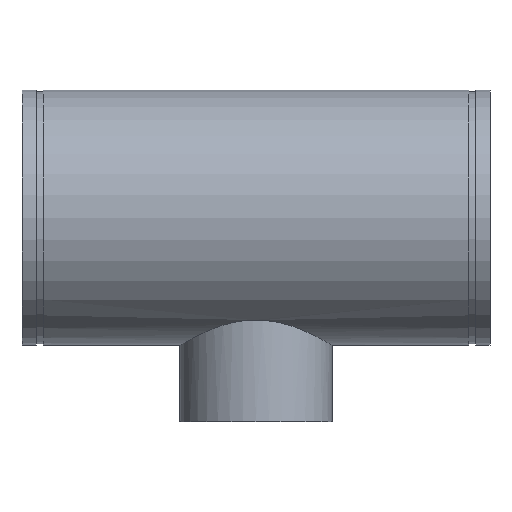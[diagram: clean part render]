
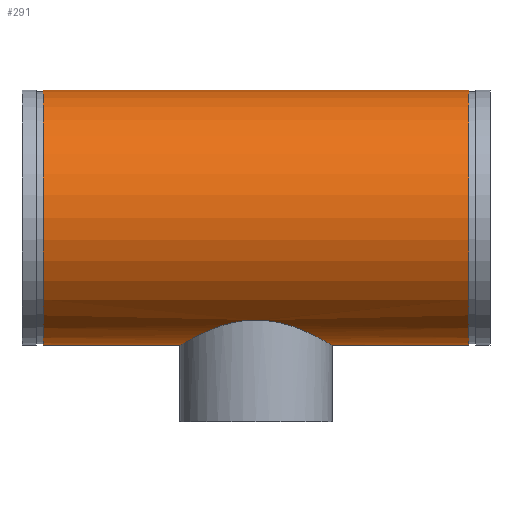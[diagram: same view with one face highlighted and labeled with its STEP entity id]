
A CAD part, top view. The second image highlights one B-rep face of the part: STEP entity #291.
In plain terms, the highlighted cylindrical face has radius 228.6 mm (diameter 457.2 mm), a full revolution.
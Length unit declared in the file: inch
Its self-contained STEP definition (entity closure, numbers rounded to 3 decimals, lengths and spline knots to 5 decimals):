
#45=B_SPLINE_CURVE_WITH_KNOTS('',3,(#511,#512,#513,#514,#515,#516,#517,
#518,#519,#520,#521,#522,#523,#524,#525,#526,#527,#528,#529,#530,#531,#532,
#533,#534,#535,#536,#537,#538,#539,#540,#541,#542,#543,#544,#545,#546,#547,
#548,#549,#550,#551,#552,#553,#554,#555,#556,#557,#558,#559,#560,#561,#562,
#563,#564,#565,#566),.UNSPECIFIED.,.F.,.F.,(4,2,2,2,2,2,2,2,2,2,2,2,2,2,
2,2,2,2,2,2,2,2,2,2,2,2,2,4),(0.,1.33009,2.66019,5.32038,
7.98057,10.64076,13.28417,15.92758,18.57099,
21.21441,23.85782,26.50123,29.14464,31.78805,
34.44824,37.10843,39.76862,41.09872,42.42881,
43.75891,45.089,47.74919,50.40938,53.06957,
55.71298,58.35639,60.99981,63.64322),
 .UNSPECIFIED.);
#46=B_SPLINE_CURVE_WITH_KNOTS('',3,(#567,#568,#569,#570,#571,#572,#573,
#574,#575,#576,#577,#578,#579,#580,#581,#582,#583,#584,#585,#586),
 .UNSPECIFIED.,.F.,.F.,(4,2,2,2,2,2,2,2,2,4),(63.64322,66.28663,
68.93004,71.57345,74.21687,76.87705,79.53724,
82.19743,83.52753,84.85762),.UNSPECIFIED.);
#51=LINE('',#508,#59);
#59=VECTOR('',#410,9.);
#67=CYLINDRICAL_SURFACE('',#338,9.);
#77=FACE_BOUND('',#108,.T.);
#88=FACE_OUTER_BOUND('',#107,.T.);
#107=EDGE_LOOP('',(#221,#222,#223,#224));
#108=EDGE_LOOP('',(#225,#226));
#121=CIRCLE('',#321,9.);
#132=CIRCLE('',#337,9.);
#141=VERTEX_POINT('',#476);
#152=VERTEX_POINT('',#505);
#153=VERTEX_POINT('',#509);
#154=VERTEX_POINT('',#510);
#165=EDGE_CURVE('',#141,#141,#121,.T.);
#178=EDGE_CURVE('',#152,#152,#132,.T.);
#179=EDGE_CURVE('',#152,#141,#51,.T.);
#180=EDGE_CURVE('',#153,#154,#45,.T.);
#181=EDGE_CURVE('',#154,#153,#46,.T.);
#221=ORIENTED_EDGE('',*,*,#178,.T.);
#222=ORIENTED_EDGE('',*,*,#179,.T.);
#223=ORIENTED_EDGE('',*,*,#165,.T.);
#224=ORIENTED_EDGE('',*,*,#179,.F.);
#225=ORIENTED_EDGE('',*,*,#180,.F.);
#226=ORIENTED_EDGE('',*,*,#181,.F.);
#291=ADVANCED_FACE('',(#88,#77),#67,.T.);
#321=AXIS2_PLACEMENT_3D('',#477,#372,#373);
#337=AXIS2_PLACEMENT_3D('',#506,#406,#407);
#338=AXIS2_PLACEMENT_3D('',#507,#408,#409);
#372=DIRECTION('center_axis',(-1.,0.,0.));
#373=DIRECTION('ref_axis',(0.,-1.,0.));
#406=DIRECTION('center_axis',(1.,0.,0.));
#407=DIRECTION('ref_axis',(0.,-1.,0.));
#408=DIRECTION('center_axis',(-1.,0.,0.));
#409=DIRECTION('ref_axis',(0.,-1.,0.));
#410=DIRECTION('',(1.,0.,0.));
#476=CARTESIAN_POINT('',(15.,9.,0.));
#477=CARTESIAN_POINT('Origin',(15.,0.,0.));
#505=CARTESIAN_POINT('',(-15.,9.,0.));
#506=CARTESIAN_POINT('Origin',(-15.,0.,0.));
#507=CARTESIAN_POINT('Origin',(16.5,0.,0.));
#508=CARTESIAN_POINT('',(16.5,9.,0.));
#509=CARTESIAN_POINT('',(0.,-7.21868,-5.375));
#510=CARTESIAN_POINT('',(-5.375,-9.,0.));
#511=CARTESIAN_POINT('Ctrl Pts',(0.,-7.21868,-5.375));
#512=CARTESIAN_POINT('Ctrl Pts',(0.17455,-7.21868,-5.375));
#513=CARTESIAN_POINT('Ctrl Pts',(0.351,-7.22506,-5.36646));
#514=CARTESIAN_POINT('Ctrl Pts',(0.70434,-7.25082,-5.33161));
#515=CARTESIAN_POINT('Ctrl Pts',(0.88123,-7.2702,-5.30529));
#516=CARTESIAN_POINT('Ctrl Pts',(1.40776,-7.34646,-5.19971));
#517=CARTESIAN_POINT('Ctrl Pts',(1.75323,-7.42182,-5.09353));
#518=CARTESIAN_POINT('Ctrl Pts',(2.41103,-7.60412,-4.81714));
#519=CARTESIAN_POINT('Ctrl Pts',(2.72405,-7.71095,-4.6467));
#520=CARTESIAN_POINT('Ctrl Pts',(3.30164,-7.93342,-4.25575));
#521=CARTESIAN_POINT('Ctrl Pts',(3.56624,-8.04887,-4.03516));
#522=CARTESIAN_POINT('Ctrl Pts',(4.03368,-8.26665,-3.56772));
#523=CARTESIAN_POINT('Ctrl Pts',(4.25403,-8.37725,-3.30389));
#524=CARTESIAN_POINT('Ctrl Pts',(4.64552,-8.58268,-2.72609));
#525=CARTESIAN_POINT('Ctrl Pts',(4.8167,-8.67738,-2.41209));
#526=CARTESIAN_POINT('Ctrl Pts',(5.094,-8.83431,-1.75212));
#527=CARTESIAN_POINT('Ctrl Pts',(5.20034,-8.89661,-1.40548));
#528=CARTESIAN_POINT('Ctrl Pts',(5.34087,-8.97948,-0.70288));
#529=CARTESIAN_POINT('Ctrl Pts',(5.375,-9.,-0.3469));
#530=CARTESIAN_POINT('Ctrl Pts',(5.375,-9.,0.3469));
#531=CARTESIAN_POINT('Ctrl Pts',(5.34087,-8.97948,0.70288));
#532=CARTESIAN_POINT('Ctrl Pts',(5.20034,-8.89661,1.40548));
#533=CARTESIAN_POINT('Ctrl Pts',(5.094,-8.83431,1.75212));
#534=CARTESIAN_POINT('Ctrl Pts',(4.8167,-8.67738,2.41209));
#535=CARTESIAN_POINT('Ctrl Pts',(4.64552,-8.58268,2.72609));
#536=CARTESIAN_POINT('Ctrl Pts',(4.25403,-8.37725,3.30389));
#537=CARTESIAN_POINT('Ctrl Pts',(4.03368,-8.26665,3.56772));
#538=CARTESIAN_POINT('Ctrl Pts',(3.56624,-8.04887,4.03516));
#539=CARTESIAN_POINT('Ctrl Pts',(3.30164,-7.93342,4.25575));
#540=CARTESIAN_POINT('Ctrl Pts',(2.72405,-7.71095,4.6467));
#541=CARTESIAN_POINT('Ctrl Pts',(2.41103,-7.60412,4.81714));
#542=CARTESIAN_POINT('Ctrl Pts',(1.75323,-7.42182,5.09353));
#543=CARTESIAN_POINT('Ctrl Pts',(1.40776,-7.34646,5.19971));
#544=CARTESIAN_POINT('Ctrl Pts',(0.88123,-7.2702,5.30529));
#545=CARTESIAN_POINT('Ctrl Pts',(0.70434,-7.25082,5.33161));
#546=CARTESIAN_POINT('Ctrl Pts',(0.351,-7.22506,5.36646));
#547=CARTESIAN_POINT('Ctrl Pts',(0.17455,-7.21868,5.375));
#548=CARTESIAN_POINT('Ctrl Pts',(-0.17455,-7.21868,5.375));
#549=CARTESIAN_POINT('Ctrl Pts',(-0.351,-7.22506,5.36646));
#550=CARTESIAN_POINT('Ctrl Pts',(-0.70434,-7.25082,5.33161));
#551=CARTESIAN_POINT('Ctrl Pts',(-0.88123,-7.2702,5.30529));
#552=CARTESIAN_POINT('Ctrl Pts',(-1.40776,-7.34646,5.19971));
#553=CARTESIAN_POINT('Ctrl Pts',(-1.75323,-7.42182,5.09353));
#554=CARTESIAN_POINT('Ctrl Pts',(-2.41103,-7.60412,4.81714));
#555=CARTESIAN_POINT('Ctrl Pts',(-2.72405,-7.71095,4.6467));
#556=CARTESIAN_POINT('Ctrl Pts',(-3.30164,-7.93342,4.25575));
#557=CARTESIAN_POINT('Ctrl Pts',(-3.56624,-8.04887,4.03516));
#558=CARTESIAN_POINT('Ctrl Pts',(-4.03368,-8.26665,3.56772));
#559=CARTESIAN_POINT('Ctrl Pts',(-4.25403,-8.37725,3.30389));
#560=CARTESIAN_POINT('Ctrl Pts',(-4.64552,-8.58268,2.72609));
#561=CARTESIAN_POINT('Ctrl Pts',(-4.8167,-8.67738,2.41209));
#562=CARTESIAN_POINT('Ctrl Pts',(-5.094,-8.83431,1.75212));
#563=CARTESIAN_POINT('Ctrl Pts',(-5.20034,-8.89661,1.40548));
#564=CARTESIAN_POINT('Ctrl Pts',(-5.34087,-8.97948,0.70288));
#565=CARTESIAN_POINT('Ctrl Pts',(-5.375,-9.,0.3469));
#566=CARTESIAN_POINT('Ctrl Pts',(-5.375,-9.,0.));
#567=CARTESIAN_POINT('Ctrl Pts',(-5.375,-9.,0.));
#568=CARTESIAN_POINT('Ctrl Pts',(-5.375,-9.,-0.3469));
#569=CARTESIAN_POINT('Ctrl Pts',(-5.34087,-8.97948,-0.70288));
#570=CARTESIAN_POINT('Ctrl Pts',(-5.20034,-8.89661,-1.40548));
#571=CARTESIAN_POINT('Ctrl Pts',(-5.094,-8.83431,-1.75212));
#572=CARTESIAN_POINT('Ctrl Pts',(-4.8167,-8.67738,-2.41209));
#573=CARTESIAN_POINT('Ctrl Pts',(-4.64552,-8.58268,-2.72609));
#574=CARTESIAN_POINT('Ctrl Pts',(-4.25403,-8.37725,-3.30389));
#575=CARTESIAN_POINT('Ctrl Pts',(-4.03368,-8.26665,-3.56772));
#576=CARTESIAN_POINT('Ctrl Pts',(-3.56624,-8.04887,-4.03516));
#577=CARTESIAN_POINT('Ctrl Pts',(-3.30164,-7.93342,-4.25575));
#578=CARTESIAN_POINT('Ctrl Pts',(-2.72405,-7.71095,-4.6467));
#579=CARTESIAN_POINT('Ctrl Pts',(-2.41103,-7.60412,-4.81714));
#580=CARTESIAN_POINT('Ctrl Pts',(-1.75323,-7.42182,-5.09353));
#581=CARTESIAN_POINT('Ctrl Pts',(-1.40776,-7.34646,-5.19971));
#582=CARTESIAN_POINT('Ctrl Pts',(-0.88123,-7.2702,-5.30529));
#583=CARTESIAN_POINT('Ctrl Pts',(-0.70434,-7.25082,-5.33161));
#584=CARTESIAN_POINT('Ctrl Pts',(-0.351,-7.22506,-5.36646));
#585=CARTESIAN_POINT('Ctrl Pts',(-0.17455,-7.21868,-5.375));
#586=CARTESIAN_POINT('Ctrl Pts',(0.,-7.21868,-5.375));
